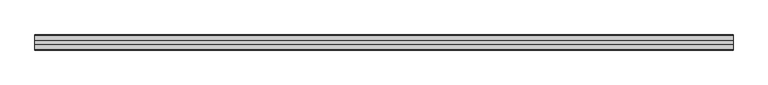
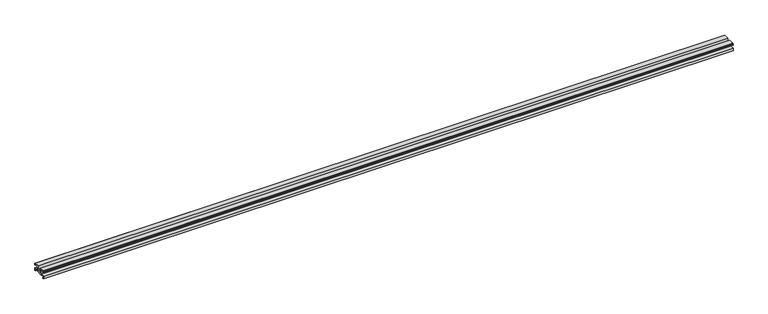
"""IFC4 building model written with IfcOpenShell, lengths in millimetres: proxy geometry, Weiku - Montante - Acoplamento vidro : Weiku - Montante - Acoplamento vidro."""

from ifc_helpers import new_model, si_unit, frame, origin, place, context, project, spatial, polyline, outline, extrude, source, transform, mapped, element, save


def generic_models_e1b19b2d(model_context):
    return source(origin(), model_context, "Body", "SweptSolid", [
        extrude(outline(polyline([(-35.405, 5.1494), (-35.405, 6.8004), (-45.741, 6.8004), (-45.741, 2.6094), (-43.8784, 2.6094), (-43.8784, 0.0), (-47.9014508, 0.0), (-47.9014508, 8.79), (-34.946, 8.79), (-34.946, 23.3104), (-43.5397, 23.3104), (-43.5397, 19.204), (-47.9, 19.204), (-47.9, 22.8024), (-46.9264, 22.8024), (-46.9264, 20.3894), (-44.725, 20.3894), (-44.725, 23.9454), (-45.5264504, 23.9454), (-45.5264504, 25.3), (-30.4164, 25.3), (-30.4164, 16.283), (-32.4484, 16.283), (-32.4484, 8.8), (-15.4516, 8.8), (-15.4516, 16.283), (-17.4836, 16.283), (-17.4836, 25.3), (-2.3735496, 25.3), (-2.3735496, 23.9454), (-3.175, 23.9454), (-3.175, 20.3894), (-0.9736, 20.3894), (-0.9736, 22.8024), (0.0, 22.8024), (0.0, 19.204), (-4.3603, 19.204), (-4.3603, 23.3104), (-12.954, 23.3104), (-12.954, 8.79), (0.0014508, 8.79), (0.0014508, 0.0), (-4.0216, 0.0), (-4.0216, 2.6094), (-2.159, 2.6094), (-2.159, 6.8004), (-12.495, 6.8004), (-12.495, 5.1494), (-35.405, 5.1494)])), frame((-1104.9, 0.0, 0.0), z_axis=(1.0, 0.0, 0.0), x_axis=(0.0, 1.0, 0.0)), (0.0, 0.0, 1.0), 2209.8),
    ])


if __name__ == "__main__":
    model = new_model("IFC4")
    model_context = context("Model", 3, world=origin())
    ifc_project = project(units=[si_unit("LENGTHUNIT", "METRE", prefix="MILLI")], contexts=[model_context])
    site = spatial("IfcSite", under=ifc_project)
    building = spatial("IfcBuilding", under=site)
    placement = place(None, origin())
    generic_models_shape = generic_models_e1b19b2d(model_context)
    element("IfcBuildingElementProxy", 1, Name="Weiku - Montante - Acoplamento vidro : Weiku - Montante - Acoplamento vidro", ObjectType="Weiku - Montante - Acoplamento vidro : Weiku - Montante - Acoplamento vidro", at=placement, inside=building, context=model_context, shape_type="MappedRepresentation", body=[
        mapped(generic_models_shape, transform((0.0, 0.0, 0.0), x_axis=(1.0, 0.0, 0.0), y_axis=(0.0, 1.0, 0.0), z_axis=(0.0, 0.0, 1.0))),
    ])
    save(model, "model.ifc")
